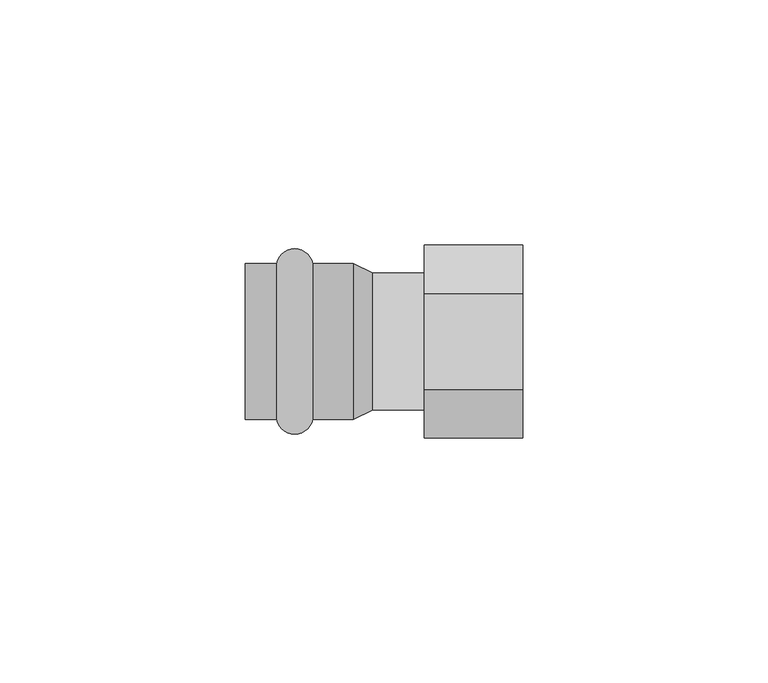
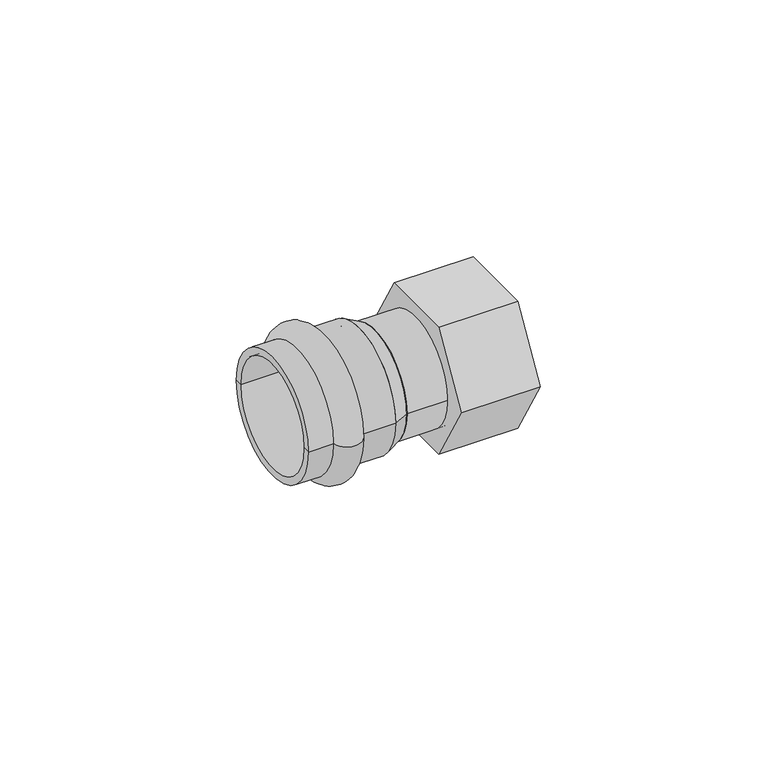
"""IFC4 building model written with IfcOpenShell, lengths in millimetres: pipe fitting geometry, VALTEC_VTi.902.I_Соединитель прямой с переходом на внутреннюю резьбу_Нержавеющая сталь : VTi.902.I."""

from ifc_helpers import new_model, si_unit, point, frame, origin, origin_2d, place, context, project, spatial, polyline, circle_curve, ellipse_curve, trimmed, segment, composite_curve, outline, extrude, source, transform, mapped, element, save
from ifc_brep_helpers import plane_surface, cylinder_surface, revolved_surface, advanced_brep


def pipe_fitting_fe2a28d7(model_context):
    return source(origin(), model_context, "Body", "SolidModel", [
        advanced_brep(
        [(-40.1242346, -15.9, 0.0), (-40.1242346, 15.9, 0.0), (-32.7757654, 15.9, 0.0), (-32.7757654, -15.9, 0.0), (-46.5, -15.9, 0.0), (-46.5, 15.9, 0.0), (-46.5, -14.0, 0.0), (-46.5, 14.0, 0.0), (-24.5, -14.0, 0.0), (-24.5, 14.0, 0.0), (-24.5, -15.9, 0.0), (-24.5, 15.9, 0.0)],
        [
            (0, 1, circle_curve(frame((-40.1242346, 0.0, 0.0), z_axis=(1.0, 0.0, 0.0), x_axis=(0.0, 1.0, 0.0)), 15.9)),
            (1, 2, circle_curve(frame((-36.45, 15.15, 0.0), z_axis=(0.0, 0.0, -1.0), x_axis=(1.0, 0.0, 0.0)), 3.75)),
            (2, 3, circle_curve(frame((-32.7757654, 0.0, 0.0), z_axis=(-1.0, 0.0, 0.0), x_axis=(0.0, 1.0, 0.0)), 15.9)),
            (3, 0, circle_curve(frame((-36.45, -15.15, 0.0), z_axis=(0.0, 0.0, -1.0), x_axis=(1.0, 0.0, 0.0)), 3.75)),
            (1, 0, circle_curve(frame((-40.1242346, 0.0, 0.0), z_axis=(1.0, 0.0, 0.0), x_axis=(0.0, 1.0, 0.0)), 15.9)),
            (3, 2, circle_curve(frame((-32.7757654, 0.0, 0.0), z_axis=(-1.0, 0.0, 0.0), x_axis=(0.0, 1.0, 0.0)), 15.9)),
            (4, 5, circle_curve(frame((-46.5, 0.0, 0.0), z_axis=(1.0, 0.0, 0.0), x_axis=(0.0, 1.0, 0.0)), 15.9)),
            (5, 1),
            (0, 4),
            (5, 4, circle_curve(frame((-46.5, 0.0, 0.0), z_axis=(1.0, 0.0, 0.0), x_axis=(0.0, 1.0, 0.0)), 15.9)),
            (6, 7, circle_curve(frame((-46.5, 0.0, 0.0), z_axis=(1.0, 0.0, 0.0), x_axis=(0.0, 1.0, 0.0)), 14.0)),
            (7, 5),
            (4, 6),
            (7, 6, circle_curve(frame((-46.5, 0.0, 0.0), z_axis=(1.0, 0.0, 0.0), x_axis=(0.0, 1.0, 0.0)), 14.0)),
            (8, 9, circle_curve(frame((-24.5, 0.0, 0.0), z_axis=(1.0, 0.0, 0.0), x_axis=(0.0, 1.0, 0.0)), 14.0)),
            (9, 7),
            (6, 8),
            (9, 8, circle_curve(frame((-24.5, 0.0, 0.0), z_axis=(1.0, 0.0, 0.0), x_axis=(0.0, 1.0, 0.0)), 14.0)),
            (10, 11, circle_curve(frame((-24.5, 0.0, 0.0), z_axis=(1.0, 0.0, 0.0), x_axis=(0.0, 1.0, 0.0)), 15.9)),
            (11, 9),
            (8, 10),
            (11, 10, circle_curve(frame((-24.5, 0.0, 0.0), z_axis=(1.0, 0.0, 0.0), x_axis=(0.0, 1.0, 0.0)), 15.9)),
            (2, 11),
            (10, 3),
        ],
        [
            revolved_surface(trimmed(ellipse_curve(frame((-36.45, 15.15, 0.0), z_axis=(0.0, 0.0, 1.0), x_axis=(1.0, 0.0, 0.0)), 3.75, 3.75), [point((-32.7757654, 15.9, 0.0))], [point((-40.1242346, 15.9, 0.0))], True, "CARTESIAN"), (-50.0364426, 0.0, 0.0), (-1.0, 0.0, 0.0)),
            cylinder_surface(frame((-50.0364426, 0.0, 0.0), z_axis=(-1.0, 0.0, 0.0), x_axis=(0.0, 1.0, 0.0)), 15.9),
            plane_surface(frame((-46.5, 0.0, 0.0), z_axis=(-1.0, 0.0, 0.0), x_axis=(0.0, 1.0, 0.0))),
            revolved_surface(polyline([(-46.5, 14.0, 0.0), (-24.5, 14.0, 0.0)]), (-50.0364426, 0.0, 0.0), (-1.0, 0.0, 0.0)),
            plane_surface(frame((-24.5, 0.0, 0.0), z_axis=(1.0, 0.0, 0.0), x_axis=(0.0, 1.0, 0.0))),
        ],
        [
            (0, [[1, 2, 3, 4]]),
            (0, [[5, -4, 6, -2]]),
            (1, [[7, 8, -1, 9]]),
            (1, [[10, -9, -5, -8]]),
            (2, [[11, 12, -7, 13]]),
            (2, [[14, -13, -10, -12]]),
            (3, [[15, 16, -11, 17]]),
            (3, [[18, -17, -14, -16]]),
            (4, [[19, 20, -15, 21]]),
            (4, [[22, -21, -18, -20]]),
            (1, [[-3, 23, -19, 24]]),
            (1, [[-6, -24, -22, -23]]),
        ],
    ),
        extrude(outline(polyline([(-19.6299092, 0.0), (-9.8149546, 17.0), (9.8149546, 17.0), (19.6299092, 0.0), (9.8149546, -17.0), (-9.8149546, -17.0), (-19.6299092, 0.0)])), frame((-10.0, 0.0, 0.0), z_axis=(1.0, 0.0, 0.0), x_axis=(0.0, 1.0, 0.0)), (0.0, 0.0, 1.0), 20.0),
        extrude(outline(composite_curve([segment(trimmed(circle_curve(origin_2d(), 14.0), [point((-14.0, 0.0))], [point((14.0, 0.0))], False, "CARTESIAN"), True, "CONTINUOUS"), segment(trimmed(circle_curve(origin_2d(), 14.0), [point((14.0, 0.0))], [point((-14.0, 0.0))], False, "CARTESIAN"), True, "CONTINUOUS")], self_intersect=False)), frame((-20.5, 0.0, 0.0), z_axis=(1.0, 0.0, 0.0), x_axis=(0.0, 1.0, 0.0)), (0.0, 0.0, 1.0), 12.0),
        advanced_brep(
        [(-20.5, -14.0, 0.0), (-20.5, 14.0, 0.0), (-24.5, -15.9, 0.0), (-24.5, 15.9, 0.0)],
        [
            (0, 1, circle_curve(frame((-20.5, 0.0, 0.0), z_axis=(1.0, 0.0, 0.0), x_axis=(0.0, -1.0, 0.0)), 14.0)),
            (1, 0, circle_curve(frame((-20.5, 0.0, 0.0), z_axis=(1.0, 0.0, 0.0), x_axis=(0.0, 1.0, 0.0)), 14.0)),
            (2, 3, circle_curve(frame((-24.5, 0.0, 0.0), z_axis=(-1.0, 0.0, 0.0), x_axis=(0.0, 1.0, 0.0)), 15.9)),
            (3, 2, circle_curve(frame((-24.5, 0.0, 0.0), z_axis=(-1.0, 0.0, 0.0), x_axis=(0.0, -1.0, 0.0)), 15.9)),
            (3, 1),
            (0, 2),
        ],
        [
            plane_surface(frame((-20.5, 0.0, 0.0), z_axis=(1.0, 0.0, 0.0), x_axis=(0.0, 0.0, -1.0))),
            plane_surface(frame((-24.5, 0.0, 0.0), z_axis=(-1.0, 0.0, 0.0), x_axis=(0.0, 0.0, -1.0))),
            revolved_surface(polyline([(-20.5, -13.999999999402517, 0.0), (-24.5, -15.9, 0.0)]), (8.9736842, 0.0, 0.0), (-1.0, 0.0, 0.0)),
            revolved_surface(polyline([(-20.5, 13.999999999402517, 0.0), (-24.5, 15.9, 0.0)]), (8.9736842, 0.0, 0.0), (-1.0, 0.0, 0.0)),
        ],
        [
            (0, [[1, 2]]),
            (1, [[3, 4]]),
            (2, [[-4, 5, -1, 6]]),
            (3, [[-3, -6, -2, -5]]),
        ],
    ),
    ])


if __name__ == "__main__":
    model = new_model("IFC4")
    model_context = context("Model", 3, world=origin())
    ifc_project = project(units=[si_unit("LENGTHUNIT", "METRE", prefix="MILLI")], contexts=[model_context])
    site = spatial("IfcSite", under=ifc_project)
    building = spatial("IfcBuilding", under=site)
    placement = place(None, origin())
    pipe_fitting_shape = pipe_fitting_fe2a28d7(model_context)
    element("IfcPipeFitting", 1, ObjectType="VALTEC_VTi.902.I_Соединитель прямой с переходом на внутреннюю резьбу_Нержавеющая сталь : VTi.902.I", at=placement, inside=building, context=model_context, shape_type="MappedRepresentation", body=[
        mapped(pipe_fitting_shape, transform((0.0, 0.0, 0.0), x_axis=(1.0, 0.0, 0.0), y_axis=(0.0, 1.0, 0.0), z_axis=(0.0, 0.0, 1.0))),
    ])
    save(model, "model.ifc")
